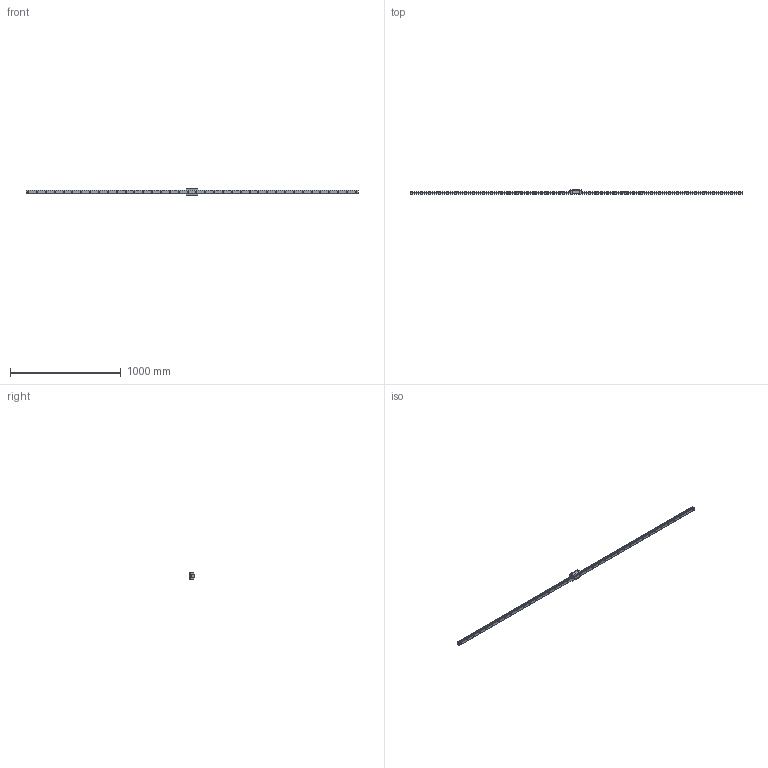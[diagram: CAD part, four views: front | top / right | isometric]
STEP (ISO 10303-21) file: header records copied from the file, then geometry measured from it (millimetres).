
FILE_DESCRIPTION(/* description */ ('STEP AP214'),/* implementation_level */ '2;1');
FILE_NAME(/* name */ 'HDR30R1SS-3000L_G20_0_B-M6F_1448-95_0_0_01',/* time_stamp */ '2023-06-30T12:29:43+02:00',/* author */ ('License CC BY-ND 4.0'),/* organization */ ('CADENAS'),/* preprocessor_version */ 'ST-DEVELOPER v19.3',/* originating_system */ 'PARTsolutions',/* authorisation */ ' ');
FILE_SCHEMA (('AUTOMOTIVE_DESIGN {1 0 10303 214 3 1 1}'));
Length unit declared in the file: millimetre
Products named in the file (4): HDR30R1SS-3000L_G20_0_B-M6F_1448-95_0_0_01; hsr_ftht_B-M6F_grease_nipple_joint; HDR30RSSB-M6F1 Slider; HDR30R1300020 Rail
Assembly tree (3 placements, depth 2):
  HDR30R1SS-3000L_G20_0_B-M6F_1448-95_0_0_01
    hsr_ftht_B-M6F_grease_nipple_joint
    HDR30RSSB-M6F1 Slider
    HDR30R1300020 Rail
Bounding box: 3000 x 45 x 60 mm (x, y, z)
Volume: 1963710.7 mm3; surface area: 405754.5 mm2
Topology: 3 solids, 3 shells, 332 faces, 814 edges, 531 vertices
Faces by surface type: plane 166, cylinder 136, cone 25, sphere 3, torus 2
Full cylindrical faces by diameter (mm): 4.917 x2, 5.2 x4, 6 x1, 6.647 x6, 8 x1, 9 x38, 14 x38
Entity records: 9459 total; most frequent: CARTESIAN_POINT 1647, DIRECTION 1634, ORIENTED_EDGE 1372, EDGE_CURVE 686, AXIS2_PLACEMENT_3D 636, FACE_BOUND 573, EDGE_LOOP 565, VERTEX_POINT 525
